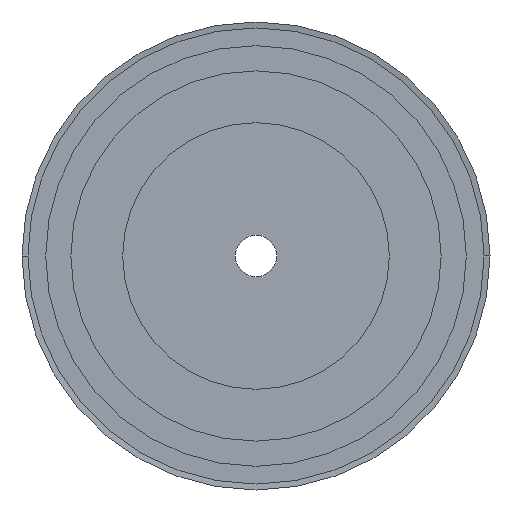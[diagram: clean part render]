
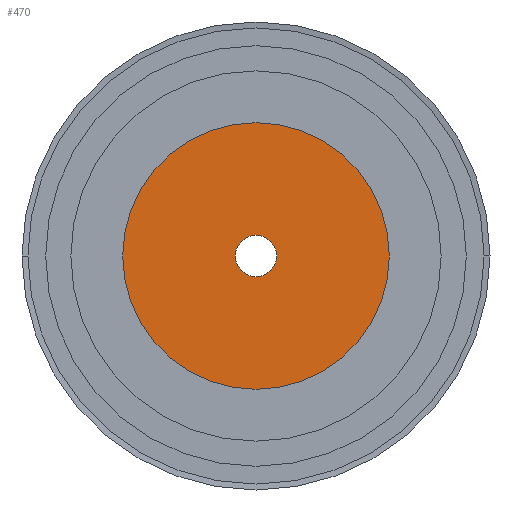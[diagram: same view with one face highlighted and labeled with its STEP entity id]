
A CAD part, left-side view. The second image highlights one B-rep face of the part: STEP entity #470.
In plain terms, the highlighted planar face has unit normal (-1, 0, 0).
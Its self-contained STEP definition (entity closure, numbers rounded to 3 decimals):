
#470 = ADVANCED_FACE( '', ( #1271, #1272 ), #1273, .T. );
#1271 = FACE_BOUND( '', #2073, .T. );
#1272 = FACE_OUTER_BOUND( '', #2074, .T. );
#1273 = PLANE( '', #2075 );
#2073 = EDGE_LOOP( '', ( #5557, #5558 ) );
#2074 = EDGE_LOOP( '', ( #5559, #5560 ) );
#2075 = AXIS2_PLACEMENT_3D( '', #5561, #5562, #5563 );
#5557 = ORIENTED_EDGE( '', *, *, #5615, .T. );
#5558 = ORIENTED_EDGE( '', *, *, #5611, .T. );
#5559 = ORIENTED_EDGE( '', *, *, #5567, .T. );
#5560 = ORIENTED_EDGE( '', *, *, #6713, .T. );
#5561 = CARTESIAN_POINT( '', ( 0., 22.5, 0. ) );
#5562 = DIRECTION( '', ( -1., 0., 0. ) );
#5563 = DIRECTION( '', ( 0., 1., 0. ) );
#5567 = EDGE_CURVE( '', #6715, #6719, #6721, .T. );
#5611 = EDGE_CURVE( '', #6803, #6800, #6804, .T. );
#5615 = EDGE_CURVE( '', #6800, #6803, #6809, .T. );
#6713 = EDGE_CURVE( '', #6719, #6715, #8627, .T. );
#6715 = VERTEX_POINT( '', #8629 );
#6719 = VERTEX_POINT( '', #8634 );
#6721 = CIRCLE( '', #8637, 45. );
#6800 = VERTEX_POINT( '', #8738 );
#6803 = VERTEX_POINT( '', #8742 );
#6804 = CIRCLE( '', #8743, 7. );
#6809 = CIRCLE( '', #8749, 7. );
#8627 = CIRCLE( '', #11167, 45. );
#8629 = CARTESIAN_POINT( '', ( 0., 45., 0. ) );
#8634 = CARTESIAN_POINT( '', ( 0., -45., 0. ) );
#8637 = AXIS2_PLACEMENT_3D( '', #11173, #11174, #11175 );
#8738 = CARTESIAN_POINT( '', ( 0., 7., 0. ) );
#8742 = CARTESIAN_POINT( '', ( 0., -7., 0. ) );
#8743 = AXIS2_PLACEMENT_3D( '', #11259, #11260, #11261 );
#8749 = AXIS2_PLACEMENT_3D( '', #11269, #11270, #11271 );
#11167 = AXIS2_PLACEMENT_3D( '', #13363, #13364, #13365 );
#11173 = CARTESIAN_POINT( '', ( 0., 0., 0. ) );
#11174 = DIRECTION( '', ( -1., 0., 0. ) );
#11175 = DIRECTION( '', ( 0., 1., 0. ) );
#11259 = CARTESIAN_POINT( '', ( 0., 0., 0. ) );
#11260 = DIRECTION( '', ( 1., 0., 0. ) );
#11261 = DIRECTION( '', ( 0., 1., 0. ) );
#11269 = CARTESIAN_POINT( '', ( 0., 0., 0. ) );
#11270 = DIRECTION( '', ( 1., 0., 0. ) );
#11271 = DIRECTION( '', ( 0., 1., 0. ) );
#13363 = CARTESIAN_POINT( '', ( 0., 0., 0. ) );
#13364 = DIRECTION( '', ( -1., 0., 0. ) );
#13365 = DIRECTION( '', ( 0., 1., 0. ) );
